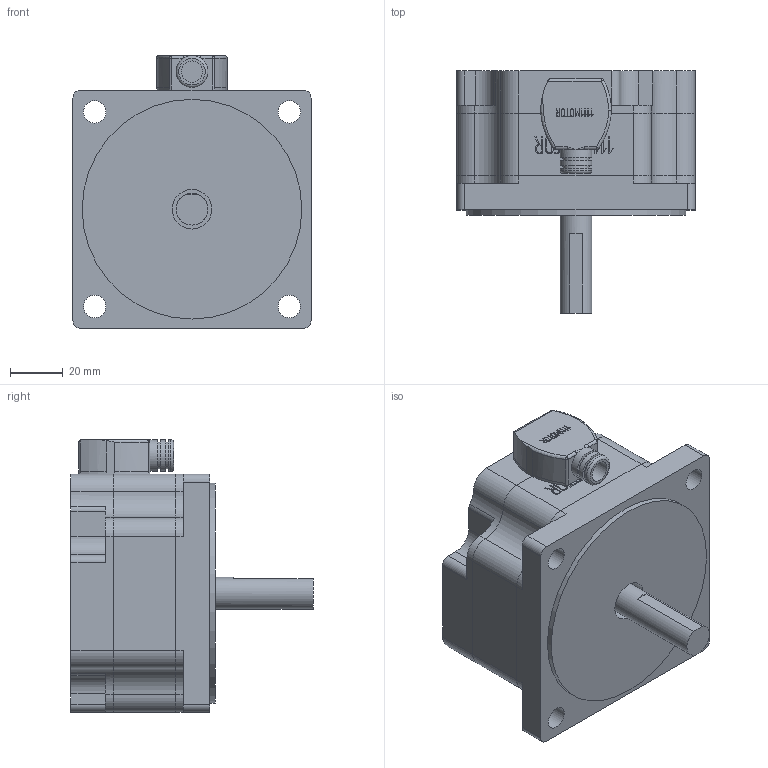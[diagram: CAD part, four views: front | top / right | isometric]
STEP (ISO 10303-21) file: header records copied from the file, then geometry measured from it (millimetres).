
FILE_DESCRIPTION(/* description */ ('Unknown'),/* implementation_level */ '2;1');
FILE_NAME(/* name */ 'BL90X',/* time_stamp */ '2020-12-29T11:25:12+08:00',/* author */ ('Unknown'),/* organization */ ('Unknown'),/* preprocessor_version */ 'ST-DEVELOPER v16.7',/* originating_system */ 'DEX',/* authorisation */ $);
FILE_SCHEMA (('AUTOMOTIVE_DESIGN {1 0 10303 214 3 1 1}'));
Length unit declared in the file: millimetre
Products named in the file (6): BL90X; BL90前; BL90後; BL90禸歌姱; BL90保護
Assembly tree (5 placements, depth 2):
  BL90X
    BL90前
    BL90後
    BL90禸歌姱
    BL90保護
    (unnamed)
Bounding box: 90 x 91.5 x 103 mm (x, y, z)
Volume: 256088.4 mm3; surface area: 69978 mm2
Topology: 5 solids, 5 shells, 314 faces, 822 edges, 545 vertices
Faces by surface type: plane 196, cylinder 87, bspline 27, sphere 3, torus 1
Full cylindrical faces by diameter (mm): 3.242 x4, 8 x1, 8.5 x4, 10 x2, 12 x4, 15 x1, 20.8 x1, 30 x1, 80 x2, 83 x1
Entity records: 12750 total; most frequent: CARTESIAN_POINT 2937, ORIENTED_EDGE 1544, DIRECTION 1488, EDGE_CURVE 772, LINE 536, VECTOR 536, VERTEX_POINT 530, AXIS2_PLACEMENT_3D 476
